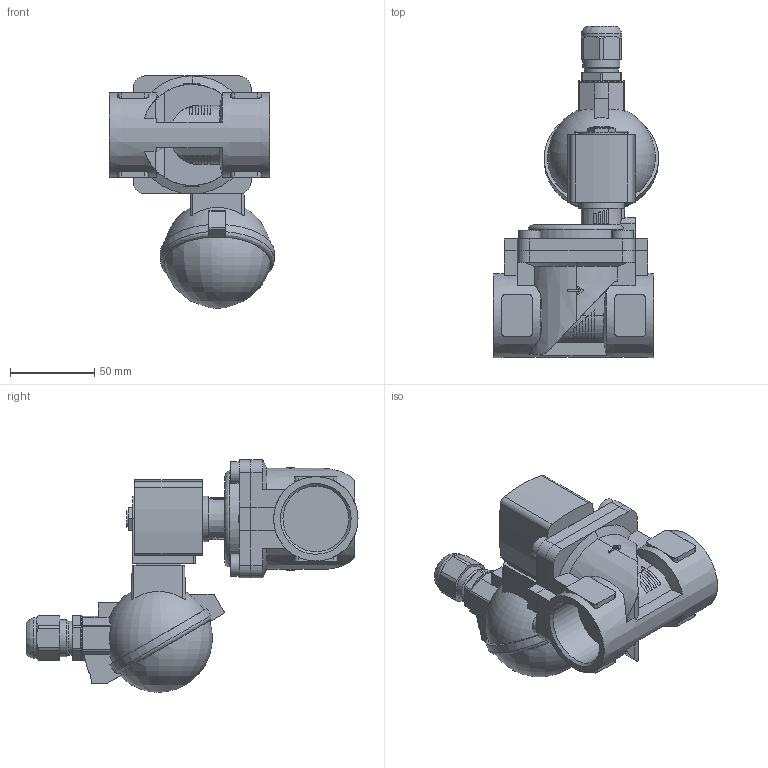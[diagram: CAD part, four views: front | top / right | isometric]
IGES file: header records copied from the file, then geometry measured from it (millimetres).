
Start section: Data from Parasolid IGES Translator 26.0.171, Copyright(c) 2006 Siemens PLM Software. All Rights Reserved.
Global section: file name: 6281-378627-2_2-Way_Solenoid_Valve__Servo-assisted__General_Purpose.igs; native system: By Siemens PLM Incorporated; preprocessor: XPlus GENERIC/IGES 26.0.171; author: Noname; organization: Noname; date: 20240828.214721; units: millimetre
Bounding box: 97.93 x 196.8 x 137.7 mm (x, y, z)
Surface area: 84340.8 mm2 (no closed solid volume)
Topology: 0 solids, 0 shells, 411 faces, 2197 edges, 2178 vertices
Faces by surface type: extrusion 247, revolution 164
